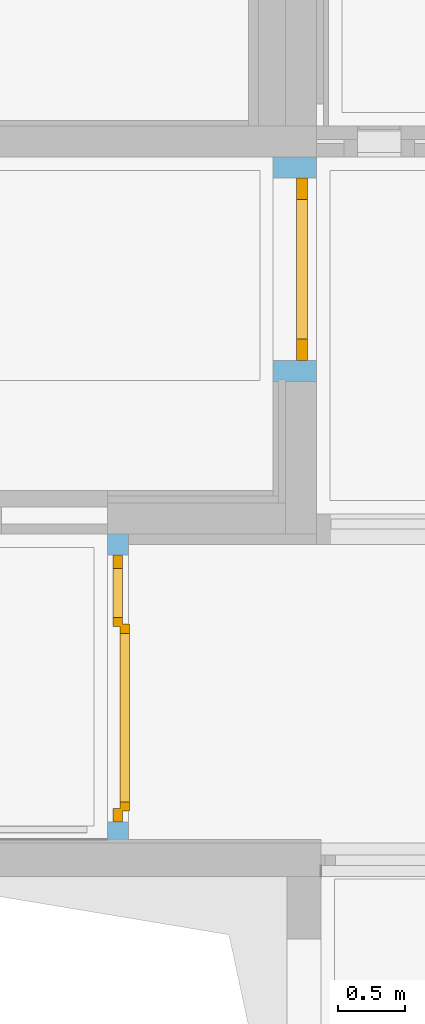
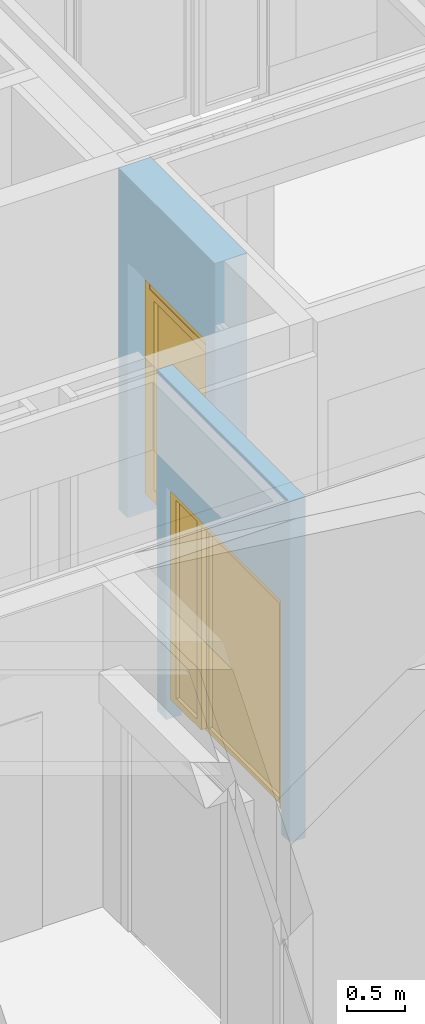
# One storey, part 95 of 207: 2 doors, 2 openings, plus 2 elements that do not belong to this part.
"""IFC4 building model written with IfcOpenShell, lengths in metres."""

from ifc_helpers import new_model, entity, si_unit, converted_unit, derived_unit, frame, frame_2d, origin, origin_with_axes, place, context, subcontext, project, spatial, polyline, rectangle, outline, extrude, closed_shell, open_shell, faceted_brep, surface_model, source, transform, mapped, material, type_object, element, fill, save


model = new_model("IFC4")

# Units and contexts
model_context = context("Model", 3, precision=1e-05, world=origin())
body_context = subcontext(model_context, "Body", "Model", "MODEL_VIEW")
ifc_project = project(units=[si_unit("LENGTHUNIT", "METRE"), si_unit("AREAUNIT", "SQUARE_METRE"), si_unit("VOLUMEUNIT", "CUBIC_METRE"), si_unit("MASSUNIT", "GRAM", prefix="KILO"), converted_unit("PLANEANGLEUNIT", "DEGREE", entity("IfcPlaneAngleMeasure", 0.0174532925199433), si_unit("PLANEANGLEUNIT", "RADIAN"), dimensions=[0, 0, 0, 0, 0, 0, 0]), derived_unit("THERMALTRANSMITTANCEUNIT", [(si_unit("POWERUNIT", "WATT"), 1), (si_unit("THERMODYNAMICTEMPERATUREUNIT", "KELVIN"), -1), (si_unit("LENGTHUNIT", "METRE"), -2)]), derived_unit("VOLUMETRICFLOWRATEUNIT", [(si_unit("LENGTHUNIT", "METRE"), 3), (converted_unit("TIMEUNIT", "hour", entity("IfcTimeMeasure", 3600.0), si_unit("TIMEUNIT", "SECOND"), dimensions=[0, 0, 1, 0, 0, 0, 0]), -1), (si_unit("LENGTHUNIT", "METRE"), -1)])], contexts=[model_context])

# Site, building, storey
site_placement = place(None, origin())
site = spatial("IfcSite", under=ifc_project, at=site_placement, Name="Psychiatrie Neubau Wunstorf", CompositionType="ELEMENT")
building_placement = place(site_placement, origin())
building = spatial("IfcBuilding", under=site, at=building_placement, Name="Neubau H2 Stationsgebäude", CompositionType="ELEMENT")
storey_placement = place(building_placement, frame((0.0, 0.0, -0.2)))
storey = spatial("IfcBuildingStorey", under=building, at=storey_placement, Name="H2 Ebene 0", CompositionType="ELEMENT", Elevation=-0.2)

# Wall, opening, door
ifc_material_1 = material(Name="WI-LW 60")
wall_1_placement = place(storey_placement, frame((50.5180000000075, 3.95250021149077, 0.0), z_axis=(0.0, 0.0, 1.0), x_axis=(0.0, 1.0, 0.0)))
wall_1 = element("IfcWall", 1, at=wall_1_placement, inside=storey, material=ifc_material_1, context=body_context, shape_type="SweptSolid", body=[
    extrude(rectangle(XDim=1.66499947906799, YDim=0.322000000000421, at=frame_2d((0.832499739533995, 0.161000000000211), x_axis=(1.0, 0.0))), origin_with_axes(), (0.0, 0.0, 1.0), 3.6),
])
opening_1_placement = place(wall_1_placement, frame((0.1549999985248, 0.0, 0.0), z_axis=(0.0, 1.0, 0.0), x_axis=(0.0, 0.0, 1.0)))
opening_1 = element("IfcOpeningElement", 2, at=opening_1_placement, cuts=wall_1, Name="Türöffnung", ObjectType="Opening", context=body_context, shape_type="SweptSolid", body=[
    extrude(outline(polyline([(2.7, 1.35500120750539), (2.7, 0.0), (0.0, 0.0), (0.0, 1.35500120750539), (2.7, 1.35500120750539)])), origin_with_axes(), (0.0, 0.0, 1.0), 0.322),
])
ifc_material_2 = material(Name="TI-1F-AG-D")
shared_shape_1 = source(origin_with_axes(), body_context, "Body", "Brep", [
    faceted_brep([(1.48250120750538, -0.0104999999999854, 0.0), (1.48250120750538, 0.0895000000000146, 0.0), (1.38250120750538, 0.0895000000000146, 0.0), (1.38250120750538, -0.0104999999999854, 0.0), (1.48250120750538, 0.0895000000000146, 3.6), (1.48250120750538, -0.0104999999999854, 3.6), (1.38250120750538, -0.0104999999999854, 3.6), (1.38250120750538, 0.0895000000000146, 3.6)], [[[0, 1, 2, 3]], [[4, 5, 6, 7]], [[1, 0, 5, 4]], [[2, 1, 4, 7]], [[3, 2, 7, 6]], [[0, 3, 6, 5]]], orient=[[False], [False], [False], [False], [False], [False]]),
    faceted_brep([(-0.0275000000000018, -0.0104999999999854, 0.0), (-0.0275000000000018, 0.0895000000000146, 0.0), (-0.127500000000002, 0.0895000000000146, 0.0), (-0.127500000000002, -0.0104999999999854, 0.0), (-0.0275000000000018, 0.0895000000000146, 3.6), (-0.0275000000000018, -0.0104999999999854, 3.6), (-0.127500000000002, -0.0104999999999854, 3.6), (-0.127500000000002, 0.0895000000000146, 3.6)], [[[0, 1, 2, 3]], [[4, 5, 6, 7]], [[1, 0, 5, 4]], [[2, 1, 4, 7]], [[3, 2, 7, 6]], [[0, 3, 6, 5]]], orient=[[False], [False], [False], [False], [False], [False]]),
    faceted_brep([(1.38250120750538, -0.0104999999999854, 2.7275), (1.38250120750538, 0.0895000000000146, 2.7275), (-0.0275000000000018, 0.0895000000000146, 2.7275), (-0.0275000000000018, -0.0104999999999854, 2.7275), (1.38250120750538, 0.0895000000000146, 2.8275), (1.38250120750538, -0.0104999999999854, 2.8275), (-0.0275000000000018, -0.0104999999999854, 2.8275), (-0.0275000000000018, 0.0895000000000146, 2.8275)], [[[0, 1, 2, 3]], [[4, 5, 6, 7]], [[1, 0, 5, 4]], [[2, 1, 4, 7]], [[3, 2, 7, 6]], [[0, 3, 6, 5]]], orient=[[False], [False], [False], [False], [False], [False]]),
])
shared_shape_2 = source(origin_with_axes(), body_context, "Body", "SurfaceModel", [
    surface_model("IfcShellBasedSurfaceModel", [(0.0, -0.000499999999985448, 2.7), (0.0799999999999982, -0.000499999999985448, 2.7), (0.0799999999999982, -0.000499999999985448, 0.2), (0.0, -0.000499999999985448, 0.2), (0.0, 0.0795000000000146, 0.2), (0.0799999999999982, 0.0795000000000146, 0.2), (0.0799999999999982, 0.0795000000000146, 2.7), (0.0, 0.0795000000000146, 2.7)], [closed_shell([[[0, 1, 2, 3]], [[4, 5, 6, 7]], [[3, 4, 7, 0]], [[2, 5, 4, 3]], [[1, 6, 5, 2]], [[0, 7, 6, 1]]], orient=[[False], [False], [False], [False], [False], [False]])]),
    surface_model("IfcShellBasedSurfaceModel", [(1.27500120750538, -0.000499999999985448, 2.7), (1.35500120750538, -0.000499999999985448, 2.7), (1.35500120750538, -0.000499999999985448, 0.2), (1.27500120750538, -0.000499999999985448, 0.2), (1.27500120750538, 0.0795000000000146, 0.2), (1.35500120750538, 0.0795000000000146, 0.2), (1.35500120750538, 0.0795000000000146, 2.7), (1.27500120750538, 0.0795000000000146, 2.7)], [closed_shell([[[0, 1, 2, 3]], [[4, 5, 6, 7]], [[3, 4, 7, 0]], [[2, 5, 4, 3]], [[1, 6, 5, 2]], [[0, 7, 6, 1]]], orient=[[False], [False], [False], [False], [False], [False]])]),
    surface_model("IfcShellBasedSurfaceModel", [(0.0799999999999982, -0.000499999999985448, 2.7), (1.27500120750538, -0.000499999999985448, 2.7), (1.27500120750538, -0.000499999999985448, 2.62), (0.0799999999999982, -0.000499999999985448, 2.62), (0.0799999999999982, 0.0795000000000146, 2.62), (1.27500120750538, 0.0795000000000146, 2.62), (1.27500120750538, 0.0795000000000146, 2.7), (0.0799999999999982, 0.0795000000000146, 2.7)], [closed_shell([[[0, 1, 2, 3]], [[4, 5, 6, 7]], [[3, 4, 7, 0]], [[2, 5, 4, 3]], [[1, 6, 5, 2]], [[0, 7, 6, 1]]], orient=[[False], [False], [False], [False], [False], [False]])]),
    surface_model("IfcShellBasedSurfaceModel", [(0.0799999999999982, 0.00450000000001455, 2.521), (1.27500120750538, 0.00450000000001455, 2.521), (1.27500120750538, 0.00450000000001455, 2.401), (0.0799999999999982, 0.00450000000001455, 2.401), (0.0799999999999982, 0.0745000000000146, 2.401), (1.27500120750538, 0.0745000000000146, 2.401), (1.27500120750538, 0.0745000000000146, 2.521), (0.0799999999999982, 0.0745000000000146, 2.521)], [closed_shell([[[0, 1, 2, 3]], [[4, 5, 6, 7]], [[3, 4, 7, 0]], [[2, 5, 4, 3]], [[1, 6, 5, 2]], [[0, 7, 6, 1]]], orient=[[False], [False], [False], [False], [False], [False]])]),
    surface_model("IfcShellBasedSurfaceModel", [(0.0799999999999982, 0.00450000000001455, 2.62), (0.149999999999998, 0.00450000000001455, 2.62), (0.149999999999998, 0.00450000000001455, 2.521), (0.0799999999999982, 0.00450000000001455, 2.521), (0.0799999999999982, 0.0745000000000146, 2.521), (0.149999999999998, 0.0745000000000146, 2.521), (0.149999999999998, 0.0745000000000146, 2.62), (0.0799999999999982, 0.0745000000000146, 2.62)], [closed_shell([[[0, 1, 2, 3]], [[4, 5, 6, 7]], [[3, 4, 7, 0]], [[2, 5, 4, 3]], [[1, 6, 5, 2]], [[0, 7, 6, 1]]], orient=[[False], [False], [False], [False], [False], [False]])]),
    surface_model("IfcShellBasedSurfaceModel", [(1.20500120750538, 0.00450000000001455, 2.62), (1.27500120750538, 0.00450000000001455, 2.62), (1.27500120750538, 0.00450000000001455, 2.521), (1.20500120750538, 0.00450000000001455, 2.521), (1.20500120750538, 0.0745000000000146, 2.521), (1.27500120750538, 0.0745000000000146, 2.521), (1.27500120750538, 0.0745000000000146, 2.62), (1.20500120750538, 0.0745000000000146, 2.62)], [closed_shell([[[0, 1, 2, 3]], [[4, 5, 6, 7]], [[3, 4, 7, 0]], [[2, 5, 4, 3]], [[1, 6, 5, 2]], [[0, 7, 6, 1]]], orient=[[False], [False], [False], [False], [False], [False]])]),
    surface_model("IfcShellBasedSurfaceModel", [(0.149999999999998, 0.00450000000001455, 2.62), (1.20500120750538, 0.00450000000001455, 2.62), (1.20500120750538, 0.00450000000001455, 2.55), (0.149999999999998, 0.00450000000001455, 2.55), (0.149999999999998, 0.0745000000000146, 2.55), (1.20500120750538, 0.0745000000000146, 2.55), (1.20500120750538, 0.0745000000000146, 2.62), (0.149999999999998, 0.0745000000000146, 2.62)], [closed_shell([[[0, 1, 2, 3]], [[4, 5, 6, 7]], [[3, 4, 7, 0]], [[2, 5, 4, 3]], [[1, 6, 5, 2]], [[0, 7, 6, 1]]], orient=[[False], [False], [False], [False], [False], [False]])]),
    surface_model("IfcShellBasedSurfaceModel", [(0.149999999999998, 0.0395000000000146, 2.521), (0.149999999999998, 0.0395000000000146, 2.55), (1.20500120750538, 0.0395000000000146, 2.55), (1.20500120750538, 0.0395000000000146, 2.521)], [open_shell([[[0, 1, 2, 3]]], orient=[[False]])]),
    surface_model("IfcShellBasedSurfaceModel", [(0.0799999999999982, 0.000500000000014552, 2.4), (0.159999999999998, 0.000500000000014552, 2.4), (0.159999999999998, 0.000500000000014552, 0.2), (0.0799999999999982, 0.000500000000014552, 0.2), (0.0799999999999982, 0.0805000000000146, 0.2), (0.159999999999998, 0.0805000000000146, 0.2), (0.159999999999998, 0.0805000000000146, 2.4), (0.0799999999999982, 0.0805000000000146, 2.4)], [closed_shell([[[0, 1, 2, 3]], [[4, 5, 6, 7]], [[3, 4, 7, 0]], [[2, 5, 4, 3]], [[1, 6, 5, 2]], [[0, 7, 6, 1]]], orient=[[False], [False], [False], [False], [False], [False]])]),
    surface_model("IfcShellBasedSurfaceModel", [(1.19500120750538, 0.000500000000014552, 2.4), (1.27500120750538, 0.000500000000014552, 2.4), (1.27500120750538, 0.000500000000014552, 0.2), (1.19500120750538, 0.000500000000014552, 0.2), (1.19500120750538, 0.0805000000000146, 0.2), (1.27500120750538, 0.0805000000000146, 0.2), (1.27500120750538, 0.0805000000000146, 2.4), (1.19500120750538, 0.0805000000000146, 2.4)], [closed_shell([[[0, 1, 2, 3]], [[4, 5, 6, 7]], [[3, 4, 7, 0]], [[2, 5, 4, 3]], [[1, 6, 5, 2]], [[0, 7, 6, 1]]], orient=[[False], [False], [False], [False], [False], [False]])]),
    surface_model("IfcShellBasedSurfaceModel", [(0.159999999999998, 0.000500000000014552, 0.32), (1.19500120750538, 0.000500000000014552, 0.32), (1.19500120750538, 0.000500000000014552, 0.2), (0.159999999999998, 0.000500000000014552, 0.2), (0.159999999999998, 0.0805000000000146, 0.2), (1.19500120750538, 0.0805000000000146, 0.2), (1.19500120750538, 0.0805000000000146, 0.32), (0.159999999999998, 0.0805000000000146, 0.32)], [closed_shell([[[0, 1, 2, 3]], [[4, 5, 6, 7]], [[3, 4, 7, 0]], [[2, 5, 4, 3]], [[1, 6, 5, 2]], [[0, 7, 6, 1]]], orient=[[False], [False], [False], [False], [False], [False]])]),
    surface_model("IfcShellBasedSurfaceModel", [(0.159999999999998, 0.000500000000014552, 2.4), (1.19500120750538, 0.000500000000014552, 2.4), (1.19500120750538, 0.000500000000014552, 2.32), (0.159999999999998, 0.000500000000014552, 2.32), (0.159999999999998, 0.0805000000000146, 2.32), (1.19500120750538, 0.0805000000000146, 2.32), (1.19500120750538, 0.0805000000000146, 2.4), (0.159999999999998, 0.0805000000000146, 2.4)], [closed_shell([[[0, 1, 2, 3]], [[4, 5, 6, 7]], [[3, 4, 7, 0]], [[2, 5, 4, 3]], [[1, 6, 5, 2]], [[0, 7, 6, 1]]], orient=[[False], [False], [False], [False], [False], [False]])]),
    surface_model("IfcShellBasedSurfaceModel", [(0.159999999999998, 0.0405000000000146, 0.32), (0.159999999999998, 0.0405000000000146, 2.32), (1.19500120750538, 0.0405000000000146, 2.32), (1.19500120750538, 0.0405000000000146, 0.32)], [open_shell([[[0, 1, 2, 3]]], orient=[[False]])]),
])
door_1_placement = place(opening_1_placement, frame((0.0, 0.0, 0.068), z_axis=(1.0, 0.0, 0.0), x_axis=(0.0, 1.0, 0.0)))
door_1 = element("IfcDoor", 3, at=door_1_placement, inside=storey, material=ifc_material_2, Name="SMT", OperationType="USERDEFINED", OverallHeight=2.7, OverallWidth=1.355, PredefinedType="DOOR", context=body_context, shape_type="MappedRepresentation", body=[
    mapped(shared_shape_1, transform((0.0, 0.0, 0.0), x_axis=(1.0, 0.0, 0.0), y_axis=(0.0, 1.0, 0.0), z_axis=(0.0, 0.0, 1.0), scale=1.0)),
    mapped(shared_shape_2, transform((0.0, 0.0, 0.0), x_axis=(1.0, 0.0, 0.0), y_axis=(0.0, 1.0, 0.0), z_axis=(0.0, 0.0, 1.0), scale=1.0)),
])
fill(opening_1, door_1)

ifc_material_3 = material(Name="WI-LB")
wall_2_placement = place(storey_placement, frame((48.9647000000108, 2.81749969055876, 0.0), z_axis=(0.0, 0.0, 1.0), x_axis=(0.0, -1.0, 0.0)))
wall_2 = element("IfcWall", 4, at=wall_2_placement, inside=storey, material=ifc_material_3, context=body_context, shape_type="SweptSolid", body=[
    extrude(rectangle(XDim=2.29249969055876, YDim=0.155, at=frame_2d((1.14624984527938, 0.0775), x_axis=(1.0, 0.0))), origin_with_axes(), (0.0, 0.0, 1.0), 3.6),
])
opening_2_placement = place(wall_2_placement, frame((2.13749984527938, 0.155, 0.0), z_axis=(0.0, -1.0, 0.0), x_axis=(0.0, 0.0, 1.0)))
opening_2 = element("IfcOpeningElement", 5, at=opening_2_placement, cuts=wall_2, Name="Türöffnung", ObjectType="Opening", context=body_context, shape_type="SweptSolid", body=[
    extrude(outline(polyline([(2.46, 1.9825), (2.46, 0.0), (0.0, 0.0), (0.0, 1.9825), (2.46, 1.9825)])), origin_with_axes(), (0.0, 0.0, 1.0), 0.155),
])
ifc_material_4 = material(Name="TI-1F-SG-D-M")
door_type = type_object("IfcDoorType", Name="SMT", OperationType="NOTDEFINED", ParameterTakesPrecedence=False, PredefinedType="DOOR")
shared_shape_3 = source(origin_with_axes(), body_context, "Body", "Brep", [
    faceted_brep([(2.10999999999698, 0.0275000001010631, 0.0), (2.10999999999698, 0.127499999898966, 0.0), (2.00999999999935, 0.127499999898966, 0.0), (2.00999999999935, 0.0275000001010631, 0.0), (2.10999999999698, 0.127499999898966, 3.6), (2.10999999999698, 0.0275000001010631, 3.6), (2.00999999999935, 0.0275000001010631, 3.6), (2.00999999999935, 0.127499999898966, 3.6)], [[[0, 1, 2, 3]], [[4, 5, 6, 7]], [[1, 0, 5, 4]], [[2, 1, 4, 7]], [[3, 2, 7, 6]], [[0, 3, 6, 5]]], orient=[[False], [False], [False], [False], [False], [False]]),
    faceted_brep([(-0.0274999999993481, 0.0275000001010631, 0.0), (-0.0274999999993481, 0.127499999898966, 0.0), (-0.127499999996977, 0.127499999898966, 0.0), (-0.127499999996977, 0.0275000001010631, 0.0), (-0.0274999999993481, 0.127499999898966, 3.6), (-0.0274999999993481, 0.0275000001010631, 3.6), (-0.127499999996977, 0.0275000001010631, 3.6), (-0.127499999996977, 0.127499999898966, 3.6)], [[[0, 1, 2, 3]], [[4, 5, 6, 7]], [[1, 0, 5, 4]], [[2, 1, 4, 7]], [[3, 2, 7, 6]], [[0, 3, 6, 5]]], orient=[[False], [False], [False], [False], [False], [False]]),
    faceted_brep([(2.00999999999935, 0.0275000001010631, 2.4875), (2.00999999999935, 0.127499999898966, 2.4875), (-0.0274999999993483, 0.127499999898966, 2.4875), (-0.0274999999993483, 0.0275000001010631, 2.4875), (2.00999999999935, 0.127499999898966, 2.5875), (2.00999999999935, 0.0275000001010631, 2.5875), (-0.0274999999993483, 0.0275000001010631, 2.5875), (-0.0274999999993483, 0.127499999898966, 2.5875)], [[[0, 1, 2, 3]], [[4, 5, 6, 7]], [[1, 0, 5, 4]], [[2, 1, 4, 7]], [[3, 2, 7, 6]], [[0, 3, 6, 5]]], orient=[[False], [False], [False], [False], [False], [False]]),
])
shared_shape_4 = source(origin_with_axes(), body_context, "Body", "SurfaceModel", [
    surface_model("IfcShellBasedSurfaceModel", [(1.9825, 0.112500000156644, 2.46), (1.8825, 0.112500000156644, 2.46), (1.8825, 0.112500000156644, 0.2), (1.9825, 0.112500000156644, 0.2), (1.9825, 0.0425000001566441, 0.2), (1.8825, 0.0425000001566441, 0.2), (1.8825, 0.0425000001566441, 2.46), (1.9825, 0.0425000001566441, 2.46)], [closed_shell([[[0, 1, 2, 3]], [[4, 5, 6, 7]], [[3, 4, 7, 0]], [[2, 5, 4, 3]], [[1, 6, 5, 2]], [[0, 7, 6, 1]]], orient=[[False], [False], [False], [False], [False], [False]])]),
    surface_model("IfcShellBasedSurfaceModel", [(0.0999999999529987, 0.112500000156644, 2.46), (0.0, 0.112500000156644, 2.46), (0.0, 0.112500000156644, 0.2), (0.0999999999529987, 0.112500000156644, 0.2), (0.0999999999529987, 0.0425000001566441, 0.2), (0.0, 0.0425000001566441, 0.2), (0.0, 0.0425000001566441, 2.46), (0.0999999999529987, 0.0425000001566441, 2.46)], [closed_shell([[[0, 1, 2, 3]], [[4, 5, 6, 7]], [[3, 4, 7, 0]], [[2, 5, 4, 3]], [[1, 6, 5, 2]], [[0, 7, 6, 1]]], orient=[[False], [False], [False], [False], [False], [False]])]),
    surface_model("IfcShellBasedSurfaceModel", [(1.8825, 0.112500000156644, 2.46), (0.0999999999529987, 0.112500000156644, 2.46), (0.0999999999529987, 0.112500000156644, 2.36), (1.8825, 0.112500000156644, 2.36), (1.8825, 0.0425000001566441, 2.36), (0.0999999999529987, 0.0425000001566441, 2.36), (0.0999999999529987, 0.0425000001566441, 2.46), (1.8825, 0.0425000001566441, 2.46)], [closed_shell([[[0, 1, 2, 3]], [[4, 5, 6, 7]], [[3, 4, 7, 0]], [[2, 5, 4, 3]], [[1, 6, 5, 2]], [[0, 7, 6, 1]]], orient=[[False], [False], [False], [False], [False], [False]])]),
    surface_model("IfcShellBasedSurfaceModel", [(1.519999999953, 0.112500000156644, 2.36), (1.449999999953, 0.112500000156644, 2.36), (1.449999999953, 0.112500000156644, 0.2), (1.519999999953, 0.112500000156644, 0.2), (1.519999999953, 0.0425000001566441, 0.2), (1.449999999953, 0.0425000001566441, 0.2), (1.449999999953, 0.0425000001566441, 2.36), (1.519999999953, 0.0425000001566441, 2.36)], [closed_shell([[[0, 1, 2, 3]], [[4, 5, 6, 7]], [[3, 4, 7, 0]], [[2, 5, 4, 3]], [[1, 6, 5, 2]], [[0, 7, 6, 1]]], orient=[[False], [False], [False], [False], [False], [False]])]),
    surface_model("IfcShellBasedSurfaceModel", [(1.8825, 0.112500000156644, 0.27), (1.519999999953, 0.112500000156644, 0.27), (1.519999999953, 0.112500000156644, 0.2), (1.8825, 0.112500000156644, 0.2), (1.8825, 0.0425000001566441, 0.2), (1.519999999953, 0.0425000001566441, 0.2), (1.519999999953, 0.0425000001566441, 0.27), (1.8825, 0.0425000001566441, 0.27)], [closed_shell([[[0, 1, 2, 3]], [[4, 5, 6, 7]], [[3, 4, 7, 0]], [[2, 5, 4, 3]], [[1, 6, 5, 2]], [[0, 7, 6, 1]]], orient=[[False], [False], [False], [False], [False], [False]])]),
    surface_model("IfcShellBasedSurfaceModel", [(1.469999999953, 0.0625000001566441, 2.38), (1.399999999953, 0.0625000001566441, 2.38), (1.399999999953, 0.0625000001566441, 0.18), (1.469999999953, 0.0625000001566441, 0.18), (1.469999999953, -0.00749999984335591, 0.18), (1.399999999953, -0.00749999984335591, 0.18), (1.399999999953, -0.00749999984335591, 2.38), (1.469999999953, -0.00749999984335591, 2.38)], [closed_shell([[[0, 1, 2, 3]], [[4, 5, 6, 7]], [[3, 4, 7, 0]], [[2, 5, 4, 3]], [[1, 6, 5, 2]], [[0, 7, 6, 1]]], orient=[[False], [False], [False], [False], [False], [False]])]),
    surface_model("IfcShellBasedSurfaceModel", [(0.149999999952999, 0.0625000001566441, 2.38), (0.0799999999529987, 0.0625000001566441, 2.38), (0.0799999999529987, 0.0625000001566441, 0.18), (0.149999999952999, 0.0625000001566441, 0.18), (0.149999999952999, -0.00749999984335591, 0.18), (0.0799999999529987, -0.00749999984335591, 0.18), (0.0799999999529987, -0.00749999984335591, 2.38), (0.149999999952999, -0.00749999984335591, 2.38)], [closed_shell([[[0, 1, 2, 3]], [[4, 5, 6, 7]], [[3, 4, 7, 0]], [[2, 5, 4, 3]], [[1, 6, 5, 2]], [[0, 7, 6, 1]]], orient=[[False], [False], [False], [False], [False], [False]])]),
    surface_model("IfcShellBasedSurfaceModel", [(1.399999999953, 0.0625000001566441, 0.23), (0.149999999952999, 0.0625000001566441, 0.23), (0.149999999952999, 0.0625000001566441, 0.18), (1.399999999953, 0.0625000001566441, 0.18), (1.399999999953, -0.00749999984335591, 0.18), (0.149999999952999, -0.00749999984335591, 0.18), (0.149999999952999, -0.00749999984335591, 0.23), (1.399999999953, -0.00749999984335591, 0.23)], [closed_shell([[[0, 1, 2, 3]], [[4, 5, 6, 7]], [[3, 4, 7, 0]], [[2, 5, 4, 3]], [[1, 6, 5, 2]], [[0, 7, 6, 1]]], orient=[[False], [False], [False], [False], [False], [False]])]),
    surface_model("IfcShellBasedSurfaceModel", [(1.399999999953, 0.0625000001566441, 2.38), (0.149999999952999, 0.0625000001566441, 2.38), (0.149999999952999, 0.0625000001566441, 2.31), (1.399999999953, 0.0625000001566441, 2.31), (1.399999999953, -0.00749999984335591, 2.31), (0.149999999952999, -0.00749999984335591, 2.31), (0.149999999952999, -0.00749999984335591, 2.38), (1.399999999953, -0.00749999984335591, 2.38)], [closed_shell([[[0, 1, 2, 3]], [[4, 5, 6, 7]], [[3, 4, 7, 0]], [[2, 5, 4, 3]], [[1, 6, 5, 2]], [[0, 7, 6, 1]]], orient=[[False], [False], [False], [False], [False], [False]])]),
    surface_model("IfcShellBasedSurfaceModel", [(1.399999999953, 0.0275000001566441, 0.23), (1.399999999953, 0.0275000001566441, 2.31), (0.149999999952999, 0.0275000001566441, 2.31), (0.149999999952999, 0.0275000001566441, 0.23)], [open_shell([[[0, 1, 2, 3]]], orient=[[False]])]),
    surface_model("IfcShellBasedSurfaceModel", [(1.8825, 0.0775000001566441, 0.27), (1.8825, 0.0775000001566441, 2.36), (1.519999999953, 0.0775000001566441, 2.36), (1.519999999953, 0.0775000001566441, 0.27)], [open_shell([[[0, 1, 2, 3]]], orient=[[False]])]),
])
door_2_placement = place(opening_2_placement, frame((0.0, 0.0, 0.0), z_axis=(1.0, 0.0, 0.0), x_axis=(0.0, 1.0, 0.0)))
door_2 = element("IfcDoor", 6, at=door_2_placement, inside=storey, type_object=door_type, material=ifc_material_4, Name="SMT", OverallHeight=2.46, OverallWidth=1.9825, context=body_context, shape_type="MappedRepresentation", body=[
    mapped(shared_shape_3, transform((0.0, 0.0, 0.0), x_axis=(1.0, 0.0, 0.0), y_axis=(0.0, 1.0, 0.0), z_axis=(0.0, 0.0, 1.0), scale=1.0)),
    mapped(shared_shape_4, transform((0.0, 0.0, 0.0), x_axis=(1.0, 0.0, 0.0), y_axis=(0.0, 1.0, 0.0), z_axis=(0.0, 0.0, 1.0), scale=1.0)),
])
fill(opening_2, door_2)

save(model, "model.ifc")
